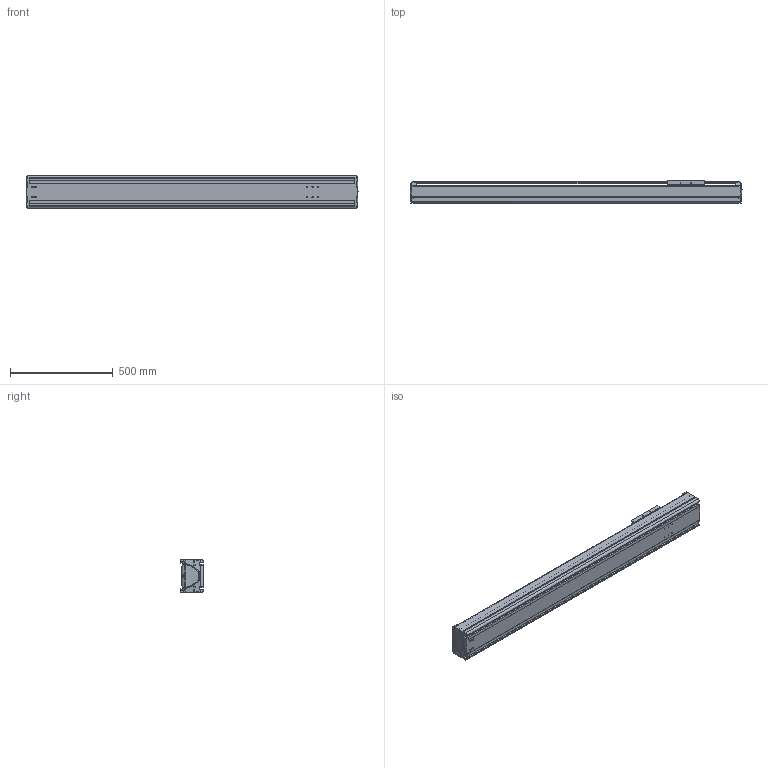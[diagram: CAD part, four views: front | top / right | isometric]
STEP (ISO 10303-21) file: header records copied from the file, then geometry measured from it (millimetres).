
FILE_DESCRIPTION((''),'2;1');
FILE_NAME('BE50G-ST-M_B-C0_IGS_PRT','2017-06-18T',(' '),(''),'PRO/ENGINEER BY PARAMETRIC TECHNOLOGY CORPORATION, 2015030','PRO/ENGINEER BY PARAMETRIC TECHNOLOGY CORPORATION, 2015030','');
FILE_SCHEMA(('CONFIG_CONTROL_DESIGN'));
Length unit declared in the file: millimetre
Products named in the file (1): BE50G-ST-M_B-C0_IGS_PRT
Bounding box: 1614.98 x 110 x 160 mm (x, y, z)
Volume: 7046152.6 mm3; surface area: 2421542.5 mm2
Topology: 2 solids, 95 shells, 1692 faces, 4500 edges, 2887 vertices
Faces by surface type: cylinder 752, plane 633, bspline 102, torus 87, cone 78, sphere 40
Entity records: 58321 total; most frequent: CARTESIAN_POINT 16768, ORIENTED_EDGE 8568, DIRECTION 8476, EDGE_CURVE 4470, AXIS2_PLACEMENT_3D 3172, VERTEX_POINT 2879, VECTOR 2132, LINE 2132
